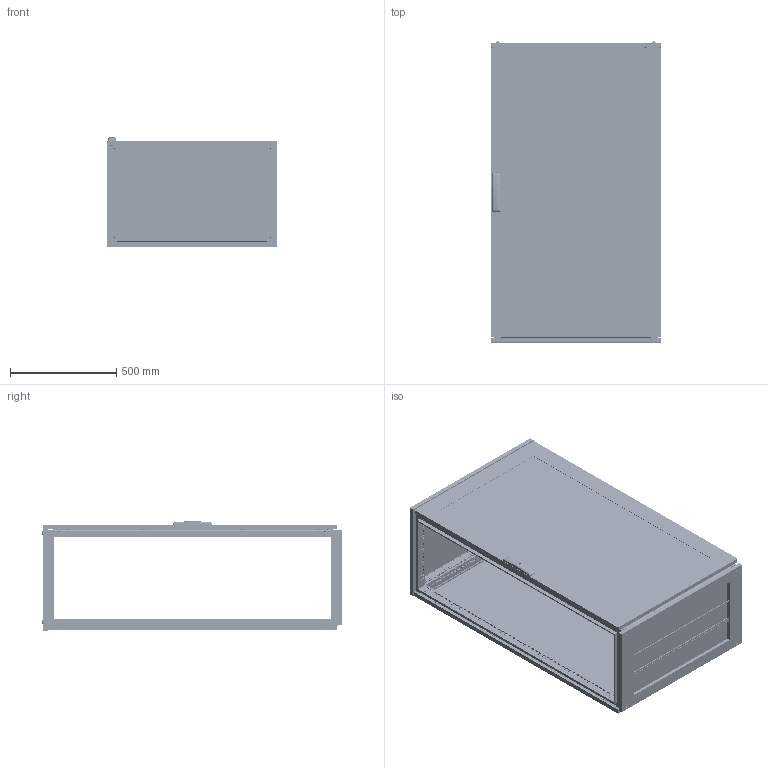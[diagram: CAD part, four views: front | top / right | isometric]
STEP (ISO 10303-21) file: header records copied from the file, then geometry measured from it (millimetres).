
FILE_DESCRIPTION (( 'STEP AP203' ), '1' );
FILE_NAME ('R5CQEN1485AX.STEP', '2025-05-16T07:05:58', ( '' ), ( '' ), 'SwSTEP 2.0', 'SolidWorks 2022', '' );
FILE_SCHEMA (( 'CONFIG_CONTROL_DESIGN' ));
Length unit declared in the file: millimetre
Products named in the file (66): Glass CPTE_1400x0800.STEP; RB.2455.00.00.0 simple_-03.STEP; PF 7,5x15 CPE simple_1400x0800.STEP; TPA.08.0139.00.01.0 simple.STEP; RB.2968.00.00.0 simple.STEP; RB.2357.00.00.0 simple_-05.STEP; R5NKTB - Assem simple_H=1400 R5NKTB85.STEP; RB.2499.01.00.0 СБ simple_-18.STEP; RB.2702.00.00.0 simple.STEP; RB.2172.00.00.1 simple.STEP; M12x16 ISO 7380-1 HX cl.4,8 Zinc_straight.STEP; RB.2680.00.00.0 СБ simple.STEP; RB.2680.00.02.0 simple.STEP; RB.2696.00.00.0 simple.STEP; M12x16 ISO 7380-1 HX cl.4,8 Zinc_straight; RB.2528.00.00.0 simple_-02.STEP; Square cap 20x20 simple.STEP; M6x10 DIN 7500 E HX cl.5.8 Zinc_straight.STEP; M6x10 DIN 912 HX cl.8,8 Zinc_straight.STEP; R5NCPTE - Assem simple_R5NCPTE1480.STEP; Pressing stud FH-M6-12_M6x12mm.STEP; RB.1957.00.00.0 simple_-10.STEP; RB.2456.00.00.0 simple_-01.STEP; M6 DIN 985 cl.6,0 Zinc_straight.STEP; Pin 4x16 DIN 7 AISI 303 (A1) simple.STEP; RB.0562.01.00.0 СБ simple_-07.STEP; RB.0562.00.00.0 СБ simple_-07.STEP; M6x15 Erickson cl.4,8 Zinc.STEP; M6 MGR-MKO-0625 simple_Thread.STEP; RB.2686.00.00.0 simple.STEP; 4.8x13 DIN 7981 PH Zinc_straight.STEP; RB.2052.00.00.0 СБ simple_-07.STEP; RB.2457.00.00.0 СБ simple_-19.STEP; RB.1633.00.02.0 simple_-01.STEP; M8x12 AC00C476 cl.8,8 Zinc_stright.STEP; RB.2680.00.01.0 simple.STEP; PF 5x10 KTB simple_800х500.STEP; Glue CPTE simple_1400x0800.STEP; RB.0528.04.00.0 СБ simple.STEP; TPA.08.0083.00.00.0 simple.STEP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
Assembly tree (173 placements, depth 5):
  R5CQEN1485AX
    R5NCPTE - Assem simple_R5NCPTE1480.STEP
      RB.0562.00.00.0 СБ simple_-07.STEP
        RB.0562.01.00.0 СБ simple_-07.STEP
          RB.0562.01.01.0 simple_-07.STEP
          М6х12 A5100231_straight.STEP  x7
          RB.2702.00.00.0 simple.STEP  x4
          PF 7,5x15 CPE simple_1400x0800.STEP
          Glass CPTE_1400x0800.STEP
          Glue CPTE simple_1400x0800.STEP
        RB.2680.00.00.0 СБ simple.STEP
          TPA.08.0139.00.01.0 simple.STEP
          RB.2680.00.01.0 simple.STEP
          RB.2680.00.02.0 simple.STEP  x2
        RB.0528.04.00.0 СБ simple.STEP  x2
          RB.0528.04.01.0 simple.STEP
          Pressing stud FH-M6-12_M6x12mm.STEP
        Square cap 20x20 simple.STEP  x2
        M6x15 Erickson cl.4,8 Zinc.STEP  x2
        RB.0528.00.01.0 simple_-02.STEP  x2
        ATOS Traction guide ILY03.35.STEP  x4
        RB.2357.00.00.0 simple_-05.STEP
        TPA.08.0139.00.03.0.STEP  x2
        M6 DIN 985 cl.6,0 Zinc_straight.STEP  x4
        4,0x16 F Torx Zinc (ART 88200)_thread.STEP  x2
      RB.2969.00.00.0 СБ simple.STEP  x4
        RB.2969.00.01.0 simple.STEP
        Pin 4x16 DIN 7 AISI 303 (A1) simple.STEP
        M6 MGR-MKO-0625 simple_Thread.STEP
      M6x10 DIN 912 HX cl.8,8 Zinc_straight.STEP  x8
      4.8x13 DIN 7981 PH Zinc_straight.STEP
      7 DIN 6799 Zinc simple.STEP  x4
      RB.2968.00.00.0 simple.STEP  x4
      AC00C446-R.STEP
      RB.2696.00.00.0 simple.STEP  x4
      7 DIN 6799 Zinc.STEP  x4
    R5NCRE-Assem simple_R5NCRE1480.STEP
      RB.2052.00.00.0 СБ simple_-07.STEP
        RB.2052.01.00.0 СБ simple_-07.STEP
          RB.0054.01.01.0 simple_-07.STEP
          М6х12 A5100231_straight.STEP  x4
        PF 7x14 CRE simple_1400x0800.STEP
      RB.2172.00.00.1 simple.STEP  x8
      M6x10 DIN 7500 E HX cl.5.8 Zinc_straight.STEP  x8
      M6x10 DIN 7500 M Torx cl.5.8 Zinc_straight.STEP  x8
    R5NKMN - Assem simple_R5NKMN14 (800х500).STEP
      RB.2528.00.00.0 simple_-02.STEP  x4
    R5NKTB - Assem simple_H=1400 R5NKTB85.STEP
      RB.2499.00.00.0 СБ simple_-19.STEP
        RB.2499.01.00.0 СБ simple_-18.STEP
          RB.1633.00.01.0 simple_-03.STEP  x2
          RB.1633.00.02.0 simple_-01.STEP  x2
          PF 5x10 KTB simple_800х500.STEP
        RB.2457.00.00.0 СБ simple_-19.STEP
          RB.2455.00.00.0 simple_-03.STEP  x2
          RB.2456.00.00.0 simple_-01.STEP  x2
          TPA.08.0084.00.00.0 simple.STEP  x2
          TPA.08.0083.00.00.0 simple.STEP  x2
          M8x12 AC00C476 cl.8,8 Zinc_stright.STEP  x4
        RB.1957.00.00.0 simple_-10.STEP  x3
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Bounding box: 800 x 1413.3 x 514.74 mm (x, y, z)
Volume: 13777021.4 mm3; surface area: 11949047 mm2
Topology: 176 solids, 192 shells, 19729 faces, 55678 edges, 36586 vertices
Faces by surface type: plane 11099, cylinder 7089, cone 704, bspline 435, torus 368, sphere 34
Entity records: 202687 total; most frequent: CARTESIAN_POINT 52493, ORIENTED_EDGE 29584, DIRECTION 28089, EDGE_CURVE 14818, VERTEX_POINT 9790, AXIS2_PLACEMENT_3D 9450, VECTOR 9189, LINE 9189
